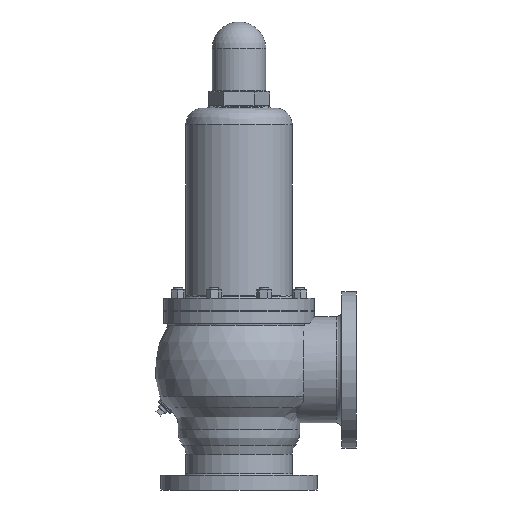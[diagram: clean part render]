
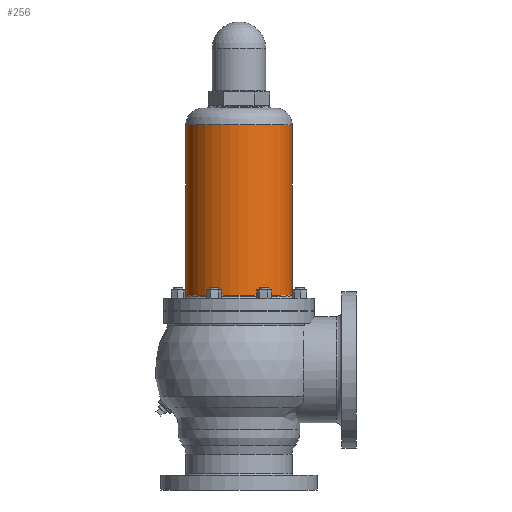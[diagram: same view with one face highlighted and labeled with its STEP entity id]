
A CAD part, front view. The second image highlights one B-rep face of the part: STEP entity #256.
In plain terms, the highlighted cylindrical face has radius 95 mm (diameter 190 mm), a partial arc.
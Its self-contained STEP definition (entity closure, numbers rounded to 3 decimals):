
#256=ADVANCED_FACE('',(#1824),#1823,.T.);
#1823=CYLINDRICAL_SURFACE('',#3826,95.);
#1824=FACE_OUTER_BOUND('',#3827,.T.);
#3823=CARTESIAN_POINT('',(0.,0.,0.));
#3824=DIRECTION('',(0.,0.,1.));
#3825=DIRECTION('',(1.,0.,0.));
#3826=AXIS2_PLACEMENT_3D('',#3823,#3824,#3825);
#3827=EDGE_LOOP('',(#5090,#5091,#5092,#5093));
#5090=ORIENTED_EDGE('',*,*,#5787,.F.);
#5091=ORIENTED_EDGE('',*,*,#5791,.T.);
#5092=ORIENTED_EDGE('',*,*,#5793,.T.);
#5093=ORIENTED_EDGE('',*,*,#5792,.F.);
#5787=EDGE_CURVE('',#8560,#8567,#8568,.T.);
#5791=EDGE_CURVE('',#8560,#8587,#8594,.T.);
#5792=EDGE_CURVE('',#8567,#8586,#8600,.T.);
#5793=EDGE_CURVE('',#8587,#8586,#8606,.T.);
#8560=VERTEX_POINT('',#11185);
#8567=VERTEX_POINT('',#11188);
#8568=CIRCLE('',#11192,95.);
#8586=VERTEX_POINT('',#11199);
#8587=VERTEX_POINT('',#11200);
#8594=(BOUNDED_CURVE() B_SPLINE_CURVE(1,(#11205,#11206),.UNSPECIFIED.,.F.,.F.) B_SPLINE_CURVE_WITH_KNOTS((2,2),(0.031,0.969),.UNSPECIFIED.) CURVE() GEOMETRIC_REPRESENTATION_ITEM() RATIONAL_B_SPLINE_CURVE((1.,1.)) REPRESENTATION_ITEM('') );
#8600=(BOUNDED_CURVE() B_SPLINE_CURVE(1,(#11207,#11208),.UNSPECIFIED.,.F.,.F.) B_SPLINE_CURVE_WITH_KNOTS((2,2),(0.031,0.969),.UNSPECIFIED.) CURVE() GEOMETRIC_REPRESENTATION_ITEM() RATIONAL_B_SPLINE_CURVE((0.75,0.75)) REPRESENTATION_ITEM('') );
#8606=CIRCLE('',#11212,95.);
#11185=CARTESIAN_POINT('',(95.,0.,133.361));
#11188=CARTESIAN_POINT('',(-95.,0.,133.361));
#11189=CARTESIAN_POINT('',(0.,0.,133.361));
#11190=DIRECTION('',(0.,0.,-1.));
#11191=DIRECTION('',(-1.,0.,0.));
#11192=AXIS2_PLACEMENT_3D('',#11189,#11190,#11191);
#11199=CARTESIAN_POINT('',(-95.,0.,438.));
#11200=CARTESIAN_POINT('',(95.,0.,438.));
#11205=CARTESIAN_POINT('',(95.,0.,133.361));
#11206=CARTESIAN_POINT('',(95.,0.,438.));
#11207=CARTESIAN_POINT('',(-95.,0.,133.361));
#11208=CARTESIAN_POINT('',(-95.,0.,438.));
#11209=CARTESIAN_POINT('',(0.,0.,438.));
#11210=DIRECTION('',(0.,0.,-1.));
#11211=DIRECTION('',(-1.,0.,0.));
#11212=AXIS2_PLACEMENT_3D('',#11209,#11210,#11211);
